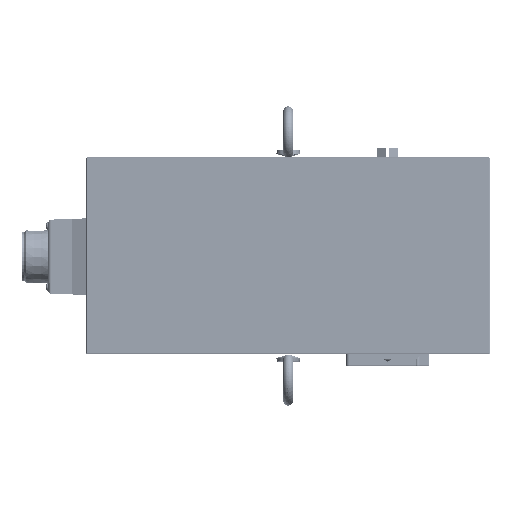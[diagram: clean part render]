
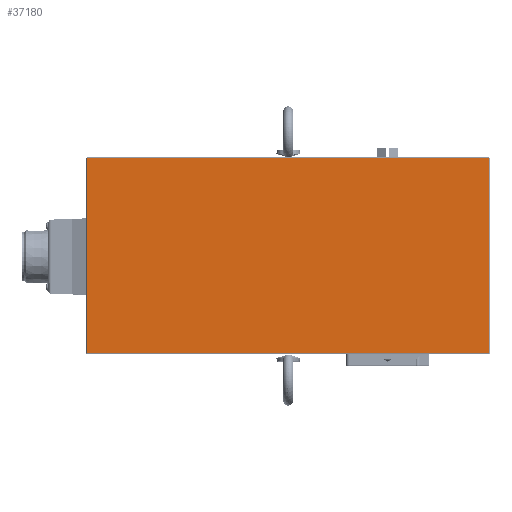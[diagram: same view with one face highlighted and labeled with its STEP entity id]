
A CAD part, top view. The second image highlights one B-rep face of the part: STEP entity #37180.
In plain terms, the highlighted planar face has unit normal (0, 0, 1).
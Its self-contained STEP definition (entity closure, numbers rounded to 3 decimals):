
#37141=CARTESIAN_POINT('',(-60.,62.5,418.));
#37142=DIRECTION('',(0.,1.,0.));
#37143=DIRECTION('',(0.,-0.,1.));
#37144=AXIS2_PLACEMENT_3D('',#37141,#37143,#37142);
#37145=PLANE('',#37144);
#37146=CARTESIAN_POINT('',(-181.5,-59.,418.));
#37147=VERTEX_POINT('',#37146);
#37148=CARTESIAN_POINT('',(61.5,-59.,418.));
#37149=VERTEX_POINT('',#37148);
#37150=CARTESIAN_POINT('',(-181.5,-59.,418.));
#37151=DIRECTION('',(1.,0.,0.));
#37152=VECTOR('',#37151,243.);
#37153=LINE('',#37150,#37152);
#37154=EDGE_CURVE('',#37147,#37149,#37153,.T.);
#37155=ORIENTED_EDGE('E2726',*,*,#37154,.T.);
#37156=CARTESIAN_POINT('',(61.5,59.,418.));
#37157=VERTEX_POINT('',#37156);
#37158=CARTESIAN_POINT('',(61.5,-59.,418.));
#37159=DIRECTION('',(0.,1.,0.));
#37160=VECTOR('',#37159,118.);
#37161=LINE('',#37158,#37160);
#37162=EDGE_CURVE('',#37149,#37157,#37161,.T.);
#37163=ORIENTED_EDGE('E2727',*,*,#37162,.T.);
#37164=CARTESIAN_POINT('',(-181.5,59.,418.));
#37165=VERTEX_POINT('',#37164);
#37166=CARTESIAN_POINT('',(61.5,59.,418.));
#37167=DIRECTION('',(-1.,0.,0.));
#37168=VECTOR('',#37167,243.);
#37169=LINE('',#37166,#37168);
#37170=EDGE_CURVE('',#37157,#37165,#37169,.T.);
#37171=ORIENTED_EDGE('E2728',*,*,#37170,.T.);
#37172=CARTESIAN_POINT('',(-181.5,59.,418.));
#37173=DIRECTION('',(0.,-1.,0.));
#37174=VECTOR('',#37173,118.);
#37175=LINE('',#37172,#37174);
#37176=EDGE_CURVE('',#37165,#37147,#37175,.T.);
#37177=ORIENTED_EDGE('E2729',*,*,#37176,.T.);
#37178=EDGE_LOOP('',(#37155,#37163,#37171,#37177));
#37179=FACE_OUTER_BOUND('',#37178,.T.);
#37180=ADVANCED_FACE('F1116',(#37179),#37145,.T.);
